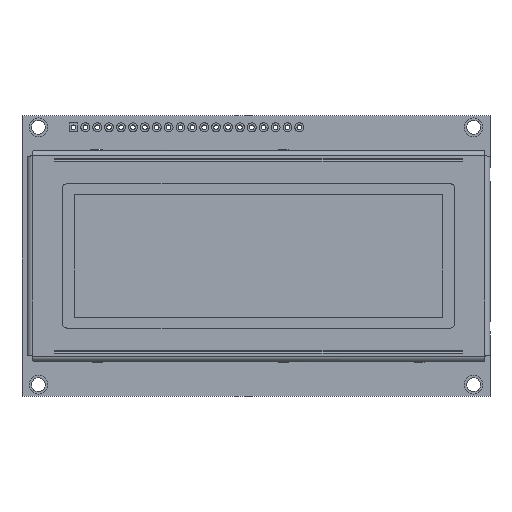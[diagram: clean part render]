
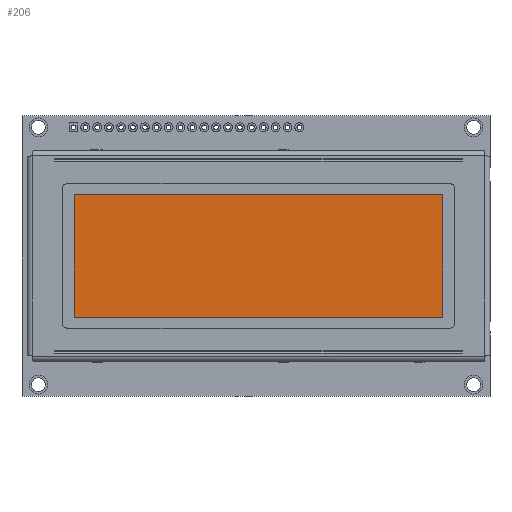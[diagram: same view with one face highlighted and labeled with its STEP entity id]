
A CAD part, top view. The second image highlights one B-rep face of the part: STEP entity #206.
In plain terms, the highlighted planar face has unit normal (0, 0, 1).
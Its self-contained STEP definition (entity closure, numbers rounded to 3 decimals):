
#206 = ADVANCED_FACE ( 'NONE', ( #60561 ), #40075, .F. ) ;
#4039 = CARTESIAN_POINT ( 'NONE',  ( 0., 0., -0.6 ) ) ;
#5381 = LINE ( 'NONE', #13792, #30096 ) ;
#5910 = LINE ( 'NONE', #12024, #25868 ) ;
#6354 = VECTOR ( 'NONE', #10662, 1000. ) ;
#8144 = ORIENTED_EDGE ( 'NONE', *, *, #40650, .T. ) ;
#8551 = ORIENTED_EDGE ( 'NONE', *, *, #22981, .T. ) ;
#10662 = DIRECTION ( 'NONE',  ( -1., 0., 0. ) ) ;
#11300 = CARTESIAN_POINT ( 'NONE',  ( 0., 13.095, -0.6 ) ) ;
#12024 = CARTESIAN_POINT ( 'NONE',  ( -39.335, 0., -0.6 ) ) ;
#13792 = CARTESIAN_POINT ( 'NONE',  ( 39.335, 0., -0.6 ) ) ;
#14097 = ORIENTED_EDGE ( 'NONE', *, *, #40941, .T. ) ;
#14134 = LINE ( 'NONE', #58619, #33916 ) ;
#16446 = LINE ( 'NONE', #11300, #6354 ) ;
#17256 = CARTESIAN_POINT ( 'NONE',  ( 39.335, 13.095, -0.6 ) ) ;
#20363 = CARTESIAN_POINT ( 'NONE',  ( 39.335, -13.095, -0.6 ) ) ;
#21087 = VERTEX_POINT ( 'NONE', #17256 ) ;
#22981 = EDGE_CURVE ( 'NONE', #55569, #34200, #14134, .T. ) ;
#23634 = DIRECTION ( 'NONE',  ( 0., 0., -1. ) ) ;
#25868 = VECTOR ( 'NONE', #45012, 1000. ) ;
#27318 = EDGE_CURVE ( 'NONE', #34200, #21087, #5381, .T. ) ;
#30096 = VECTOR ( 'NONE', #33334, 1000. ) ;
#30153 = DIRECTION ( 'NONE',  ( 1., 0., 0. ) ) ;
#31099 = CARTESIAN_POINT ( 'NONE',  ( -39.335, -13.095, -0.6 ) ) ;
#33334 = DIRECTION ( 'NONE',  ( 0., 1., 0. ) ) ;
#33916 = VECTOR ( 'NONE', #30153, 1000. ) ;
#34200 = VERTEX_POINT ( 'NONE', #20363 ) ;
#40075 = PLANE ( 'NONE',  #42956 ) ;
#40650 = EDGE_CURVE ( 'NONE', #53556, #55569, #5910, .T. ) ;
#40941 = EDGE_CURVE ( 'NONE', #21087, #53556, #16446, .T. ) ;
#42956 = AXIS2_PLACEMENT_3D ( 'NONE', #4039, #23634, #63328 ) ;
#45012 = DIRECTION ( 'NONE',  ( 0., -1., 0. ) ) ;
#53556 = VERTEX_POINT ( 'NONE', #60637 ) ;
#54266 = EDGE_LOOP ( 'NONE', ( #8551, #57251, #14097, #8144 ) ) ;
#55569 = VERTEX_POINT ( 'NONE', #31099 ) ;
#57251 = ORIENTED_EDGE ( 'NONE', *, *, #27318, .T. ) ;
#58619 = CARTESIAN_POINT ( 'NONE',  ( 0., -13.095, -0.6 ) ) ;
#60561 = FACE_OUTER_BOUND ( 'NONE', #54266, .T. ) ;
#60637 = CARTESIAN_POINT ( 'NONE',  ( -39.335, 13.095, -0.6 ) ) ;
#63328 = DIRECTION ( 'NONE',  ( -1., 0., 0. ) ) ;
